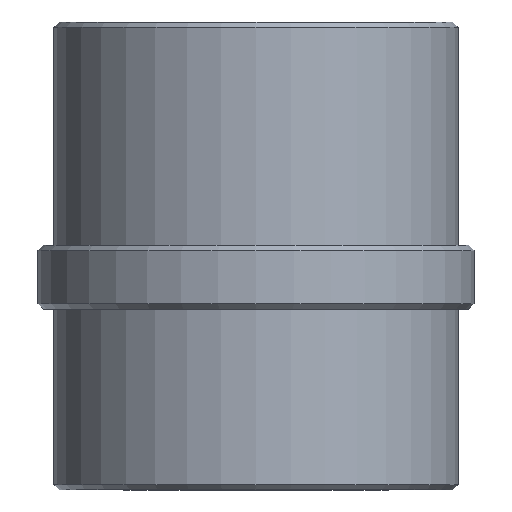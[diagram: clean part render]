
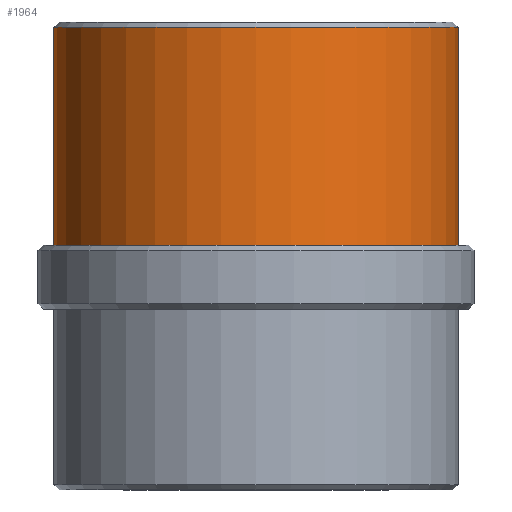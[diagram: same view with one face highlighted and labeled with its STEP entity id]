
A CAD part, front view. The second image highlights one B-rep face of the part: STEP entity #1964.
In plain terms, the highlighted cylindrical face has radius 19 mm (diameter 38 mm), a partial arc.
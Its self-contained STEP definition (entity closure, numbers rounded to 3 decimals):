
#961=CARTESIAN_POINT('',(0.,0.,26.5));
#962=DIRECTION('',(0.,0.,-1.));
#963=DIRECTION('',(1.,0.,0.));
#964=AXIS2_PLACEMENT_3D('',#961,#962,#963);
#966=DIRECTION('',(0.,0.,-1.));
#967=VECTOR('',#966,20.5);
#968=CARTESIAN_POINT('',(19.,0.,
26.5));
#969=LINE('',#968,#967);
#970=DIRECTION('',(0.,0.,-1.));
#971=VECTOR('',#970,20.5);
#972=CARTESIAN_POINT('',(-19.,0.,
26.5));
#973=LINE('',#972,#971);
#983=CARTESIAN_POINT('',(0.,0.,6.));
#984=DIRECTION('',(0.,0.,-1.));
#985=DIRECTION('',(1.,0.,0.));
#986=AXIS2_PLACEMENT_3D('',#983,#984,#985);
#1193=CARTESIAN_POINT('',(19.,0.,6.));
#1194=CARTESIAN_POINT('',(-19.,0.,6.));
#1195=VERTEX_POINT('',#1193);
#1196=VERTEX_POINT('',#1194);
#1229=CARTESIAN_POINT('',(19.,0.,26.5));
#1230=CARTESIAN_POINT('',(-19.,0.,26.5));
#1231=VERTEX_POINT('',#1229);
#1232=VERTEX_POINT('',#1230);
#1950=CARTESIAN_POINT('',(0.,0.,-19.2));
#1951=DIRECTION('',(0.,0.,1.));
#1952=DIRECTION('',(-1.,0.,0.));
#1953=AXIS2_PLACEMENT_3D('',#1950,#1951,#1952);
#1954=CYLINDRICAL_SURFACE('',#1953,19.);
#1955=ORIENTED_EDGE('',*,*,#1940,.F.);
#1957=ORIENTED_EDGE('',*,*,#1956,.T.);
#1959=ORIENTED_EDGE('',*,*,#1958,.T.);
#1961=ORIENTED_EDGE('',*,*,#1960,.F.);
#1962=EDGE_LOOP('',(#1955,#1957,#1959,#1961));
#1963=FACE_OUTER_BOUND('',#1962,.F.);
#1964=ADVANCED_FACE('',(#1963),#1954,.T.);
#965=CIRCLE('',#964,19.);
#987=CIRCLE('',#986,19.);
#1940=EDGE_CURVE('',#1231,#1232,#965,.T.);
#1956=EDGE_CURVE('',#1231,#1195,#969,.T.);
#1958=EDGE_CURVE('',#1195,#1196,#987,.T.);
#1960=EDGE_CURVE('',#1232,#1196,#973,.T.);
